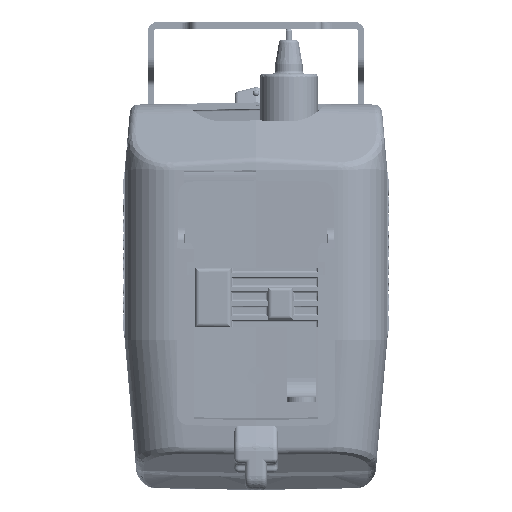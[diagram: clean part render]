
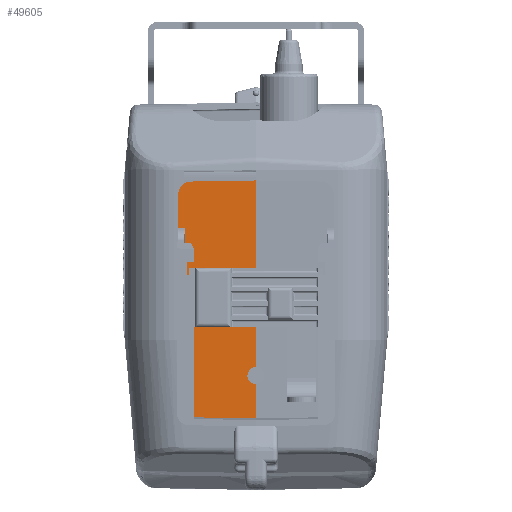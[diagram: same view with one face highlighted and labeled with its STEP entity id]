
A CAD part, front view. The second image highlights one B-rep face of the part: STEP entity #49605.
In plain terms, the highlighted planar face has unit normal (0.018, -1, 0).
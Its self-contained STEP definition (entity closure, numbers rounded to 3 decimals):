
#525 = LINE ( 'NONE', #19106, #34989 ) ;
#1454 = EDGE_CURVE ( 'NONE', #150733, #93471, #17352, .T. ) ;
#7138 = CARTESIAN_POINT ( 'NONE',  ( 8275.386, -89.453, -254.243 ) ) ;
#10556 = CARTESIAN_POINT ( 'NONE',  ( -33.733, -234.489, -113.665 ) ) ;
#11692 = CARTESIAN_POINT ( 'NONE',  ( -33.733, -234.489, -115.396 ) ) ;
#17329 = CARTESIAN_POINT ( 'NONE',  ( -0.262, -233.905, -4.832 ) ) ;
#17352 =( BOUNDED_CURVE ( )  B_SPLINE_CURVE ( 3, ( #83741, #204604, #11692, #10556 ),
 .UNSPECIFIED., .F., .F. ) 
 B_SPLINE_CURVE_WITH_KNOTS ( ( 4, 4 ),
 ( 2.224, 3.775 ),
 .UNSPECIFIED. ) 
 CURVE ( )  GEOMETRIC_REPRESENTATION_ITEM ( )  RATIONAL_B_SPLINE_CURVE ( ( 1., 0.809, 0.809, 1. ) ) 
 REPRESENTATION_ITEM ( '' )  );
#19106 = CARTESIAN_POINT ( 'NONE',  ( -8721.371, -386.132, -200.732 ) ) ;
#20524 = CARTESIAN_POINT ( 'NONE',  ( -8.1, -234.041, -101.05 ) ) ;
#26808 = CARTESIAN_POINT ( 'NONE',  ( -36.74, -234.541, -11.325 ) ) ;
#28545 = CARTESIAN_POINT ( 'NONE',  ( -21.75, -234.28, -48.88 ) ) ;
#33352 = CARTESIAN_POINT ( 'NONE',  ( -36.74, -234.541, -27.45 ) ) ;
#34989 = VECTOR ( 'NONE', #213176, 1000. ) ;
#35695 = CARTESIAN_POINT ( 'NONE',  ( 0., -233.9, -92.95 ) ) ;
#36298 = CARTESIAN_POINT ( 'NONE',  ( -34.313, -234.499, -5.396 ) ) ;
#38264 = LINE ( 'NONE', #17329, #133625 ) ;
#39329 = ORIENTED_EDGE ( 'NONE', *, *, #196099, .T. ) ;
#44222 = VERTEX_POINT ( 'NONE', #84451 ) ;
#47475 = EDGE_CURVE ( 'NONE', #144789, #153550, #59928, .T. ) ;
#48416 = LINE ( 'NONE', #65799, #143928 ) ;
#49605 = ADVANCED_FACE ( 'NONE', ( #208907 ), #192568, .T. ) ;
#51068 = ORIENTED_EDGE ( 'NONE', *, *, #92885, .T. ) ;
#52771 = VERTEX_POINT ( 'NONE', #134649 ) ;
#56095 = EDGE_CURVE ( 'NONE', #52771, #92683, #191274, .T. ) ;
#59534 =( BOUNDED_CURVE ( )  B_SPLINE_CURVE ( 3, ( #35695, #179694, #20524, #106579 ),
 .UNSPECIFIED., .F., .T. ) 
 B_SPLINE_CURVE_WITH_KNOTS ( ( 4, 4 ),
 ( 4.712, 7.854 ),
 .UNSPECIFIED. ) 
 CURVE ( )  GEOMETRIC_REPRESENTATION_ITEM ( )  RATIONAL_B_SPLINE_CURVE ( ( 1., 0.333, 0.333, 1. ) ) 
 REPRESENTATION_ITEM ( '' )  );
#59928 = LINE ( 'NONE', #129639, #134426 ) ;
#62302 = CARTESIAN_POINT ( 'NONE',  ( -36.74, -234.541, -151. ) ) ;
#63765 = DIRECTION ( 'NONE',  ( -1., -0.017, 0.012 ) ) ;
#64621 = EDGE_CURVE ( 'NONE', #44222, #168515, #38264, .T. ) ;
#65799 = CARTESIAN_POINT ( 'NONE',  ( 8720.928, -81.676, -226.124 ) ) ;
#73939 = CARTESIAN_POINT ( 'NONE',  ( 0., -233.9, -117.167 ) ) ;
#75475 = ORIENTED_EDGE ( 'NONE', *, *, #176634, .F. ) ;
#77323 = CARTESIAN_POINT ( 'NONE',  ( -21.75, -234.28, -500000. ) ) ;
#79357 = ORIENTED_EDGE ( 'NONE', *, *, #133224, .T. ) ;
#82219 = EDGE_CURVE ( 'NONE', #95823, #44222, #198798, .T. ) ;
#83741 = CARTESIAN_POINT ( 'NONE',  ( -30.787, -234.437, -116.657 ) ) ;
#83845 = CARTESIAN_POINT ( 'NONE',  ( -30.847, -234.438, -5.339 ) ) ;
#84451 = CARTESIAN_POINT ( 'NONE',  ( 0., -233.9, -4.828 ) ) ;
#92683 = VERTEX_POINT ( 'NONE', #181973 ) ;
#92758 = VECTOR ( 'NONE', #112920, 1000. ) ;
#92885 = EDGE_CURVE ( 'NONE', #100600, #95823, #525, .T. ) ;
#93471 = VERTEX_POINT ( 'NONE', #110624 ) ;
#95823 = VERTEX_POINT ( 'NONE', #177861 ) ;
#97454 = ORIENTED_EDGE ( 'NONE', *, *, #134195, .T. ) ;
#98680 = CARTESIAN_POINT ( 'NONE',  ( 6107.97, -127.285, -102.552 ) ) ;
#98810 = DIRECTION ( 'NONE',  ( 0., 0., 1. ) ) ;
#100600 = VERTEX_POINT ( 'NONE', #28545 ) ;
#101865 = DIRECTION ( 'NONE',  ( 0., 0., 1. ) ) ;
#102066 = VECTOR ( 'NONE', #98810, 1000. ) ;
#104633 = ORIENTED_EDGE ( 'NONE', *, *, #110671, .F. ) ;
#106579 = CARTESIAN_POINT ( 'NONE',  ( 0., -233.9, -101.05 ) ) ;
#106815 = VERTEX_POINT ( 'NONE', #33352 ) ;
#107744 = DIRECTION ( 'NONE',  ( 0.017, -1., 0. ) ) ;
#109322 = ORIENTED_EDGE ( 'NONE', *, *, #47475, .T. ) ;
#110624 = CARTESIAN_POINT ( 'NONE',  ( -33.733, -234.489, -113.665 ) ) ;
#110671 = EDGE_CURVE ( 'NONE', #100600, #114258, #130769, .T. ) ;
#112920 = DIRECTION ( 'NONE',  ( 1., 0.017, -0.017 ) ) ;
#113698 = ORIENTED_EDGE ( 'NONE', *, *, #56095, .T. ) ;
#114258 = VERTEX_POINT ( 'NONE', #203241 ) ;
#115888 = CARTESIAN_POINT ( 'NONE',  ( 0., -233.9, -500000. ) ) ;
#116237 = CARTESIAN_POINT ( 'NONE',  ( 0., -233.9, -500000. ) ) ;
#121558 = VECTOR ( 'NONE', #161022, 1000. ) ;
#121559 = DIRECTION ( 'NONE',  ( -1., -0.017, 0.017 ) ) ;
#123315 =( BOUNDED_CURVE ( )  B_SPLINE_CURVE ( 3, ( #218639, #162860, #36298, #177983 ),
 .UNSPECIFIED., .F., .F. ) 
 B_SPLINE_CURVE_WITH_KNOTS ( ( 4, 4 ),
 ( 5.65, 7.2 ),
 .UNSPECIFIED. ) 
 CURVE ( )  GEOMETRIC_REPRESENTATION_ITEM ( )  RATIONAL_B_SPLINE_CURVE ( ( 1., 0.809, 0.809, 1. ) ) 
 REPRESENTATION_ITEM ( '' )  );
#129361 = VERTEX_POINT ( 'NONE', #134423 ) ;
#129639 = CARTESIAN_POINT ( 'NONE',  ( 0., -233.9, -500000. ) ) ;
#129870 = VECTOR ( 'NONE', #185451, 1000. ) ;
#130330 = ORIENTED_EDGE ( 'NONE', *, *, #194825, .F. ) ;
#130769 = LINE ( 'NONE', #77323, #121558 ) ;
#130803 = DIRECTION ( 'NONE',  ( 0., 0., 1. ) ) ;
#131377 = ORIENTED_EDGE ( 'NONE', *, *, #133162, .T. ) ;
#133162 = EDGE_CURVE ( 'NONE', #129361, #93471, #164035, .T. ) ;
#133224 = EDGE_CURVE ( 'NONE', #150733, #144789, #150019, .T. ) ;
#133625 = VECTOR ( 'NONE', #157919, 1000. ) ;
#134195 = EDGE_CURVE ( 'NONE', #221199, #106815, #150601, .T. ) ;
#134423 = CARTESIAN_POINT ( 'NONE',  ( -33.733, -234.489, -27.487 ) ) ;
#134426 = VECTOR ( 'NONE', #130803, 1000. ) ;
#134649 = CARTESIAN_POINT ( 'NONE',  ( 0., -233.9, -92.95 ) ) ;
#143571 = ORIENTED_EDGE ( 'NONE', *, *, #179804, .F. ) ;
#143928 = VECTOR ( 'NONE', #121559, 1000. ) ;
#144789 = VERTEX_POINT ( 'NONE', #73939 ) ;
#145267 = CARTESIAN_POINT ( 'NONE',  ( -30.787, -234.437, -116.657 ) ) ;
#145433 = DIRECTION ( 'NONE',  ( 0., 0., -1. ) ) ;
#146935 = VECTOR ( 'NONE', #101865, 1000. ) ;
#148791 = CARTESIAN_POINT ( 'NONE',  ( 0., -233.9, -101.05 ) ) ;
#150019 = LINE ( 'NONE', #7138, #92758 ) ;
#150258 = AXIS2_PLACEMENT_3D ( 'NONE', #227499, #107744, #194866 ) ;
#150601 = LINE ( 'NONE', #62302, #129870 ) ;
#150733 = VERTEX_POINT ( 'NONE', #145267 ) ;
#153550 = VERTEX_POINT ( 'NONE', #148791 ) ;
#157919 = DIRECTION ( 'NONE',  ( -1., -0.017, -0.017 ) ) ;
#159569 = EDGE_LOOP ( 'NONE', ( #113698, #39329, #104633, #51068, #170037, #207927, #75475, #97454, #130330, #131377, #216645, #79357, #109322, #143571 ) ) ;
#161022 = DIRECTION ( 'NONE',  ( 0., 0., -1. ) ) ;
#162860 = CARTESIAN_POINT ( 'NONE',  ( -36.74, -234.541, -7.861 ) ) ;
#164035 = LINE ( 'NONE', #181433, #189055 ) ;
#168515 = VERTEX_POINT ( 'NONE', #83845 ) ;
#170037 = ORIENTED_EDGE ( 'NONE', *, *, #82219, .T. ) ;
#176634 = EDGE_CURVE ( 'NONE', #221199, #168515, #123315, .T. ) ;
#177861 = CARTESIAN_POINT ( 'NONE',  ( 0., -233.9, -48.5 ) ) ;
#177983 = CARTESIAN_POINT ( 'NONE',  ( -30.847, -234.438, -5.339 ) ) ;
#179694 = CARTESIAN_POINT ( 'NONE',  ( -8.1, -234.041, -92.95 ) ) ;
#179804 = EDGE_CURVE ( 'NONE', #52771, #153550, #59534, .T. ) ;
#181433 = CARTESIAN_POINT ( 'NONE',  ( -33.733, -234.489, -500000. ) ) ;
#181973 = CARTESIAN_POINT ( 'NONE',  ( 0., -233.9, -73.9 ) ) ;
#185451 = DIRECTION ( 'NONE',  ( 0., 0., -1. ) ) ;
#189055 = VECTOR ( 'NONE', #145433, 1000. ) ;
#191274 = LINE ( 'NONE', #115888, #146935 ) ;
#191886 = VECTOR ( 'NONE', #63765, 1000. ) ;
#192568 = PLANE ( 'NONE',  #150258 ) ;
#194825 = EDGE_CURVE ( 'NONE', #129361, #106815, #222969, .T. ) ;
#194866 = DIRECTION ( 'NONE',  ( -1., -0.017, 0. ) ) ;
#196099 = EDGE_CURVE ( 'NONE', #92683, #114258, #48416, .T. ) ;
#198798 = LINE ( 'NONE', #116237, #102066 ) ;
#203241 = CARTESIAN_POINT ( 'NONE',  ( -21.75, -234.28, -73.52 ) ) ;
#204604 = CARTESIAN_POINT ( 'NONE',  ( -32.52, -234.468, -116.629 ) ) ;
#207927 = ORIENTED_EDGE ( 'NONE', *, *, #64621, .T. ) ;
#208907 = FACE_OUTER_BOUND ( 'NONE', #159569, .T. ) ;
#213176 = DIRECTION ( 'NONE',  ( 1., 0.017, 0.017 ) ) ;
#216645 = ORIENTED_EDGE ( 'NONE', *, *, #1454, .F. ) ;
#218639 = CARTESIAN_POINT ( 'NONE',  ( -36.74, -234.541, -11.325 ) ) ;
#221199 = VERTEX_POINT ( 'NONE', #26808 ) ;
#222969 = LINE ( 'NONE', #98680, #191886 ) ;
#227499 = CARTESIAN_POINT ( 'NONE',  ( 0., -233.9, -500000. ) ) ;
